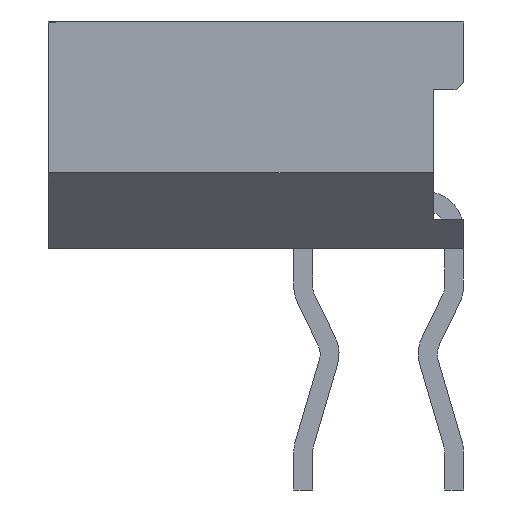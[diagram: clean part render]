
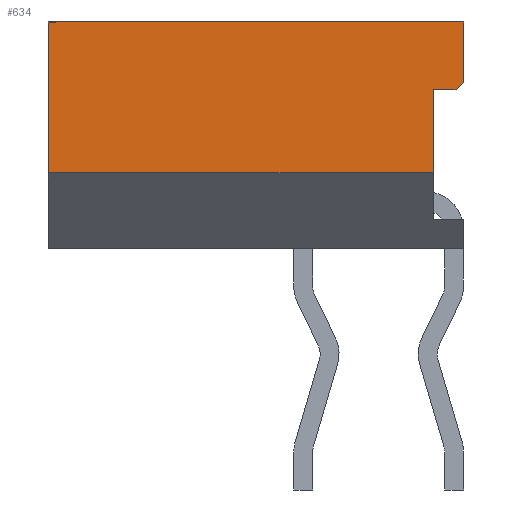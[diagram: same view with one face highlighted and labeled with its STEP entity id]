
A CAD part, left-side view. The second image highlights one B-rep face of the part: STEP entity #634.
In plain terms, the highlighted planar face has unit normal (-1, 0, 0).
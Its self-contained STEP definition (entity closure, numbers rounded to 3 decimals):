
#34 = EDGE_CURVE ( 'NONE', #4216, #1173, #1599, .T. ) ;
#36 = EDGE_LOOP ( 'NONE', ( #1243, #5999, #1792, #2718, #4203, #363, #5419 ) ) ;
#363 = ORIENTED_EDGE ( 'NONE', *, *, #2462, .F. ) ;
#411 = DIRECTION ( 'NONE',  ( 0., 0., -1. ) ) ;
#634 = ADVANCED_FACE ( 'NONE', ( #5597 ), #4116, .F. ) ;
#689 = CARTESIAN_POINT ( 'NONE',  ( 7.5, -5.5, 0. ) ) ;
#1173 = VERTEX_POINT ( 'NONE', #2005 ) ;
#1243 = ORIENTED_EDGE ( 'NONE', *, *, #4333, .F. ) ;
#1244 = CARTESIAN_POINT ( 'NONE',  ( 7.5, 0., 0. ) ) ;
#1391 = LINE ( 'NONE', #2274, #1854 ) ;
#1433 = DIRECTION ( 'NONE',  ( 0., 0.707, -0.707 ) ) ;
#1442 = DIRECTION ( 'NONE',  ( 0., 1., 0. ) ) ;
#1599 = LINE ( 'NONE', #3452, #5517 ) ;
#1703 = LINE ( 'NONE', #1244, #5451 ) ;
#1712 = CARTESIAN_POINT ( 'NONE',  ( 7.5, -5.5, 2.2 ) ) ;
#1792 = ORIENTED_EDGE ( 'NONE', *, *, #4699, .F. ) ;
#1854 = VECTOR ( 'NONE', #411, 1000. ) ;
#1893 = VERTEX_POINT ( 'NONE', #4297 ) ;
#2005 = CARTESIAN_POINT ( 'NONE',  ( 7.5, -5.5, 3. ) ) ;
#2133 = LINE ( 'NONE', #689, #5829 ) ;
#2174 = VERTEX_POINT ( 'NONE', #2266 ) ;
#2266 = CARTESIAN_POINT ( 'NONE',  ( 7.5, -5.1, 1. ) ) ;
#2274 = CARTESIAN_POINT ( 'NONE',  ( 7.5, -5.1, 0.39 ) ) ;
#2409 = EDGE_CURVE ( 'NONE', #4950, #1173, #2133, .T. ) ;
#2446 = VECTOR ( 'NONE', #5279, 1000. ) ;
#2462 = EDGE_CURVE ( 'NONE', #4906, #4216, #1703, .T. ) ;
#2648 = CARTESIAN_POINT ( 'NONE',  ( 7.5, -5.1, 2.1 ) ) ;
#2718 = ORIENTED_EDGE ( 'NONE', *, *, #2409, .T. ) ;
#3036 = CARTESIAN_POINT ( 'NONE',  ( 7.5, -5.5, 2.2 ) ) ;
#3168 = LINE ( 'NONE', #1712, #3898 ) ;
#3314 = VERTEX_POINT ( 'NONE', #2648 ) ;
#3452 = CARTESIAN_POINT ( 'NONE',  ( 7.5, 0., 3. ) ) ;
#3530 = EDGE_CURVE ( 'NONE', #1893, #3314, #4558, .T. ) ;
#3550 = CARTESIAN_POINT ( 'NONE',  ( 7.5, 0., 1. ) ) ;
#3553 = DIRECTION ( 'NONE',  ( 0., 0., 1. ) ) ;
#3573 = EDGE_CURVE ( 'NONE', #2174, #4906, #4337, .T. ) ;
#3661 = DIRECTION ( 'NONE',  ( 1., 0., 0. ) ) ;
#3747 = CARTESIAN_POINT ( 'NONE',  ( 7.5, 0., 0. ) ) ;
#3898 = VECTOR ( 'NONE', #1433, 1000. ) ;
#4116 = PLANE ( 'NONE',  #4359 ) ;
#4156 = CARTESIAN_POINT ( 'NONE',  ( 7.5, -5.1, 2.1 ) ) ;
#4194 = DIRECTION ( 'NONE',  ( 0., -1., 0. ) ) ;
#4203 = ORIENTED_EDGE ( 'NONE', *, *, #34, .F. ) ;
#4216 = VERTEX_POINT ( 'NONE', #5817 ) ;
#4297 = CARTESIAN_POINT ( 'NONE',  ( 7.5, -5.4, 2.1 ) ) ;
#4333 = EDGE_CURVE ( 'NONE', #3314, #2174, #1391, .T. ) ;
#4337 = LINE ( 'NONE', #5194, #2446 ) ;
#4359 = AXIS2_PLACEMENT_3D ( 'NONE', #3747, #3661, #1442 ) ;
#4558 = LINE ( 'NONE', #4156, #5356 ) ;
#4699 = EDGE_CURVE ( 'NONE', #4950, #1893, #3168, .T. ) ;
#4906 = VERTEX_POINT ( 'NONE', #3550 ) ;
#4922 = DIRECTION ( 'NONE',  ( 0., 0., 1. ) ) ;
#4950 = VERTEX_POINT ( 'NONE', #3036 ) ;
#5194 = CARTESIAN_POINT ( 'NONE',  ( 7.5, 0., 1. ) ) ;
#5279 = DIRECTION ( 'NONE',  ( 0., 1., 0. ) ) ;
#5356 = VECTOR ( 'NONE', #5985, 1000. ) ;
#5419 = ORIENTED_EDGE ( 'NONE', *, *, #3573, .F. ) ;
#5451 = VECTOR ( 'NONE', #3553, 1000. ) ;
#5517 = VECTOR ( 'NONE', #4194, 1000. ) ;
#5597 = FACE_OUTER_BOUND ( 'NONE', #36, .T. ) ;
#5817 = CARTESIAN_POINT ( 'NONE',  ( 7.5, 0., 3. ) ) ;
#5829 = VECTOR ( 'NONE', #4922, 1000. ) ;
#5985 = DIRECTION ( 'NONE',  ( 0., 1., 0. ) ) ;
#5999 = ORIENTED_EDGE ( 'NONE', *, *, #3530, .F. ) ;
